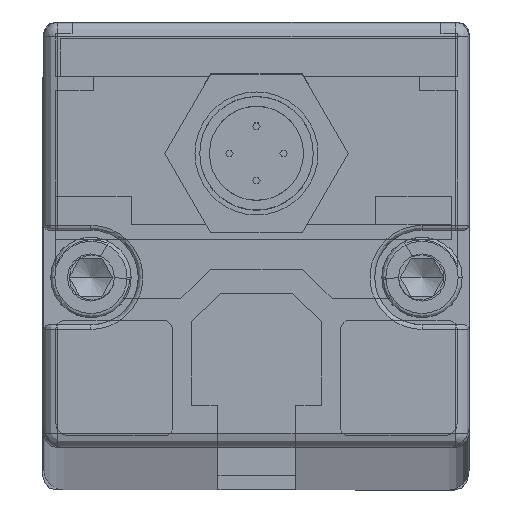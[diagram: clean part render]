
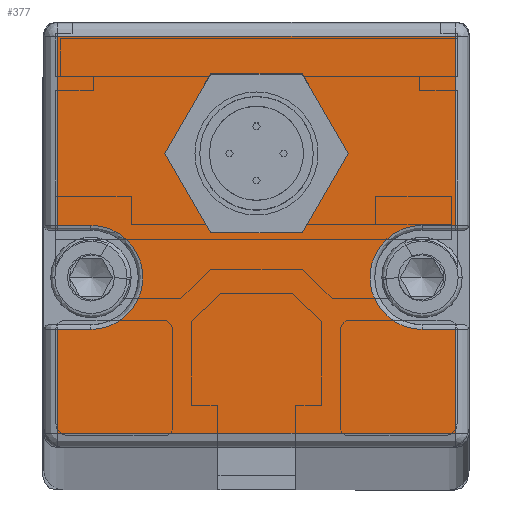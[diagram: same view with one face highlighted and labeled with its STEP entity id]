
A CAD part, top view. The second image highlights one B-rep face of the part: STEP entity #377.
In plain terms, the highlighted planar face has unit normal (0, 0, 1) as drawn and (0, 1, 0) by its records, which use the part's own axes.
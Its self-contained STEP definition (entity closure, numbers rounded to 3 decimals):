
#129 = EDGE_CURVE ( 'NONE', #612, #616, #3897, .T. ) ;
#162 = EDGE_CURVE ( 'NONE', #619, #626, #3945, .T. ) ;
#164 = EDGE_CURVE ( 'NONE', #628, #630, #3940, .T. ) ;
#165 = EDGE_CURVE ( 'NONE', #618, #619, #3948, .T. ) ;
#166 = EDGE_CURVE ( 'NONE', #626, #628, #3950, .T. ) ;
#167 = EDGE_CURVE ( 'NONE', #616, #612, #3954, .T. ) ;
#168 = EDGE_CURVE ( 'NONE', #629, #618, #3943, .T. ) ;
#169 = EDGE_CURVE ( 'NONE', #630, #627, #3955, .T. ) ;
#170 = EDGE_CURVE ( 'NONE', #627, #622, #3957, .T. ) ;
#171 = EDGE_CURVE ( 'NONE', #622, #621, #3959, .T. ) ;
#172 = EDGE_CURVE ( 'NONE', #621, #632, #3963, .T. ) ;
#173 = EDGE_CURVE ( 'NONE', #632, #625, #3939, .T. ) ;
#174 = EDGE_CURVE ( 'NONE', #625, #631, #3964, .T. ) ;
#175 = EDGE_CURVE ( 'NONE', #631, #629, #3966, .T. ) ;
#377 = ADVANCED_FACE ( 'NONE', ( #4164, #4165 ), #1493, .T. ) ;
#612 = VERTEX_POINT ( 'NONE', #6422 ) ;
#616 = VERTEX_POINT ( 'NONE', #6426 ) ;
#618 = VERTEX_POINT ( 'NONE', #6428 ) ;
#619 = VERTEX_POINT ( 'NONE', #6429 ) ;
#621 = VERTEX_POINT ( 'NONE', #6431 ) ;
#622 = VERTEX_POINT ( 'NONE', #6432 ) ;
#625 = VERTEX_POINT ( 'NONE', #6435 ) ;
#626 = VERTEX_POINT ( 'NONE', #6436 ) ;
#627 = VERTEX_POINT ( 'NONE', #6437 ) ;
#628 = VERTEX_POINT ( 'NONE', #6438 ) ;
#629 = VERTEX_POINT ( 'NONE', #6439 ) ;
#630 = VERTEX_POINT ( 'NONE', #6440 ) ;
#631 = VERTEX_POINT ( 'NONE', #6441 ) ;
#632 = VERTEX_POINT ( 'NONE', #6442 ) ;
#1040 = CARTESIAN_POINT ( 'NONE',  ( 0., 7., -8.6 ) ) ;
#1042 = DIRECTION ( 'NONE',  ( 0., 1., 0. ) ) ;
#1043 = DIRECTION ( 'NONE',  ( 0., 0., 1. ) ) ;
#1130 = CARTESIAN_POINT ( 'NONE',  ( 17.5, 7., 4.5 ) ) ;
#1137 = CARTESIAN_POINT ( 'NONE',  ( 0., 7., -8.6 ) ) ;
#1138 = DIRECTION ( 'NONE',  ( 0., -1., 0. ) ) ;
#1139 = DIRECTION ( 'NONE',  ( 0., 0., 1. ) ) ;
#1141 = CARTESIAN_POINT ( 'NONE',  ( -17.5, 7., 4.5 ) ) ;
#1144 = CARTESIAN_POINT ( 'NONE',  ( 21., 7., -22.5 ) ) ;
#1145 = DIRECTION ( 'NONE',  ( 0., 0., -1. ) ) ;
#1146 = CARTESIAN_POINT ( 'NONE',  ( 22.5, 7., 10. ) ) ;
#1147 = DIRECTION ( 'NONE',  ( -1., 0., 0. ) ) ;
#1148 = CARTESIAN_POINT ( 'NONE',  ( 22.5, 7., -1. ) ) ;
#1149 = DIRECTION ( 'NONE',  ( 1., 0., 0. ) ) ;
#1151 = DIRECTION ( 'NONE',  ( 0., 1., 0. ) ) ;
#1152 = DIRECTION ( 'NONE',  ( 0., 0., 1. ) ) ;
#1153 = CARTESIAN_POINT ( 'NONE',  ( 21., 7., 9.5 ) ) ;
#1154 = DIRECTION ( 'NONE',  ( 0., 0., -1. ) ) ;
#1155 = CARTESIAN_POINT ( 'NONE',  ( 22.5, 7., -21. ) ) ;
#1156 = DIRECTION ( 'NONE',  ( -1., 0., 0. ) ) ;
#1157 = CARTESIAN_POINT ( 'NONE',  ( -21., 7., 22.5 ) ) ;
#1158 = DIRECTION ( 'NONE',  ( 0., 0., 1. ) ) ;
#1159 = CARTESIAN_POINT ( 'NONE',  ( 22.5, 7., -1. ) ) ;
#1160 = DIRECTION ( 'NONE',  ( 1., 0., 0. ) ) ;
#1162 = DIRECTION ( 'NONE',  ( 0., -1., 0. ) ) ;
#1163 = DIRECTION ( 'NONE',  ( 0., 0., 1. ) ) ;
#1164 = CARTESIAN_POINT ( 'NONE',  ( 22.5, 7., 10. ) ) ;
#1165 = DIRECTION ( 'NONE',  ( -1., 0., 0. ) ) ;
#1166 = CARTESIAN_POINT ( 'NONE',  ( -21., 7., 22.5 ) ) ;
#1167 = DIRECTION ( 'NONE',  ( 0., 0., 1. ) ) ;
#1168 = CARTESIAN_POINT ( 'NONE',  ( 22.5, 7., 21. ) ) ;
#1169 = DIRECTION ( 'NONE',  ( 1., 0., 0. ) ) ;
#1479 = CARTESIAN_POINT ( 'NONE',  ( 22.5, 7., 22.5 ) ) ;
#1493 = PLANE ( 'NONE',  #4459 ) ;
#1494 = DIRECTION ( 'NONE',  ( 0., 1., 0. ) ) ;
#1495 = DIRECTION ( 'NONE',  ( 0., 0., 1. ) ) ;
#2509 = AXIS2_PLACEMENT_3D ( 'NONE', #1040, #1042, #1043 ) ;
#2525 = AXIS2_PLACEMENT_3D ( 'NONE', #1130, #1138, #1139 ) ;
#2529 = AXIS2_PLACEMENT_3D ( 'NONE', #1141, #1162, #1163 ) ;
#2530 = AXIS2_PLACEMENT_3D ( 'NONE', #1137, #1151, #1152 ) ;
#2812 = ORIENTED_EDGE ( 'NONE', *, *, #167, .F. ) ;
#2813 = ORIENTED_EDGE ( 'NONE', *, *, #129, .F. ) ;
#2814 = ORIENTED_EDGE ( 'NONE', *, *, #168, .T. ) ;
#2815 = ORIENTED_EDGE ( 'NONE', *, *, #165, .T. ) ;
#2816 = ORIENTED_EDGE ( 'NONE', *, *, #162, .T. ) ;
#2817 = ORIENTED_EDGE ( 'NONE', *, *, #166, .T. ) ;
#2818 = ORIENTED_EDGE ( 'NONE', *, *, #164, .T. ) ;
#2819 = ORIENTED_EDGE ( 'NONE', *, *, #169, .T. ) ;
#2820 = ORIENTED_EDGE ( 'NONE', *, *, #170, .T. ) ;
#2821 = ORIENTED_EDGE ( 'NONE', *, *, #171, .T. ) ;
#2822 = ORIENTED_EDGE ( 'NONE', *, *, #172, .T. ) ;
#2823 = ORIENTED_EDGE ( 'NONE', *, *, #173, .T. ) ;
#2824 = ORIENTED_EDGE ( 'NONE', *, *, #174, .T. ) ;
#2825 = ORIENTED_EDGE ( 'NONE', *, *, #175, .T. ) ;
#3550 = EDGE_LOOP ( 'NONE', ( #2814, #2815, #2816, #2817, #2818, #2819, #2820, #2821, #2822, #2823, #2824, #2825 ) ) ;
#3584 = EDGE_LOOP ( 'NONE', ( #2812, #2813 ) ) ;
#3897 = CIRCLE ( 'NONE', #2509, 6.5 ) ;
#3939 = LINE ( 'NONE', #1164, #3953 ) ;
#3940 = LINE ( 'NONE', #1144, #3942 ) ;
#3942 = VECTOR ( 'NONE', #1145, 1000. ) ;
#3943 = LINE ( 'NONE', #1153, #3946 ) ;
#3945 = CIRCLE ( 'NONE', #2525, 5.5 ) ;
#3946 = VECTOR ( 'NONE', #1154, 1000. ) ;
#3948 = LINE ( 'NONE', #1146, #3949 ) ;
#3949 = VECTOR ( 'NONE', #1147, 1000. ) ;
#3950 = LINE ( 'NONE', #1148, #3951 ) ;
#3951 = VECTOR ( 'NONE', #1149, 1000. ) ;
#3953 = VECTOR ( 'NONE', #1165, 1000. ) ;
#3954 = CIRCLE ( 'NONE', #2530, 6.5 ) ;
#3955 = LINE ( 'NONE', #1155, #3956 ) ;
#3956 = VECTOR ( 'NONE', #1156, 1000. ) ;
#3957 = LINE ( 'NONE', #1157, #3958 ) ;
#3958 = VECTOR ( 'NONE', #1158, 1000. ) ;
#3959 = LINE ( 'NONE', #1159, #3960 ) ;
#3960 = VECTOR ( 'NONE', #1160, 1000. ) ;
#3963 = CIRCLE ( 'NONE', #2529, 5.5 ) ;
#3964 = LINE ( 'NONE', #1166, #3965 ) ;
#3965 = VECTOR ( 'NONE', #1167, 1000. ) ;
#3966 = LINE ( 'NONE', #1168, #3967 ) ;
#3967 = VECTOR ( 'NONE', #1169, 1000. ) ;
#4164 = FACE_BOUND ( 'NONE', #3584, .T. ) ;
#4165 = FACE_OUTER_BOUND ( 'NONE', #3550, .T. ) ;
#4459 = AXIS2_PLACEMENT_3D ( 'NONE', #1479, #1494, #1495 ) ;
#6422 = CARTESIAN_POINT ( 'NONE',  ( 0., 7., -15.1 ) ) ;
#6426 = CARTESIAN_POINT ( 'NONE',  ( 0., 7., -2.1 ) ) ;
#6428 = CARTESIAN_POINT ( 'NONE',  ( 21., 7., 10. ) ) ;
#6429 = CARTESIAN_POINT ( 'NONE',  ( 17.5, 7., 10. ) ) ;
#6431 = CARTESIAN_POINT ( 'NONE',  ( -17.5, 7., -1. ) ) ;
#6432 = CARTESIAN_POINT ( 'NONE',  ( -21., 7., -1. ) ) ;
#6435 = CARTESIAN_POINT ( 'NONE',  ( -21., 7., 10. ) ) ;
#6436 = CARTESIAN_POINT ( 'NONE',  ( 17.5, 7., -1. ) ) ;
#6437 = CARTESIAN_POINT ( 'NONE',  ( -21., 7., -21. ) ) ;
#6438 = CARTESIAN_POINT ( 'NONE',  ( 21., 7., -1. ) ) ;
#6439 = CARTESIAN_POINT ( 'NONE',  ( 21., 7., 21. ) ) ;
#6440 = CARTESIAN_POINT ( 'NONE',  ( 21., 7., -21. ) ) ;
#6441 = CARTESIAN_POINT ( 'NONE',  ( -21., 7., 21. ) ) ;
#6442 = CARTESIAN_POINT ( 'NONE',  ( -17.5, 7., 10. ) ) ;
